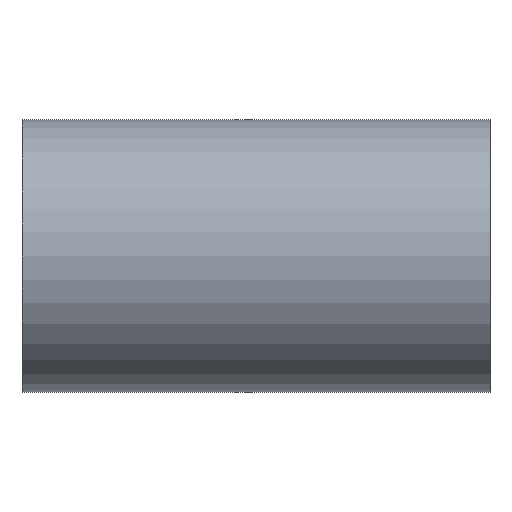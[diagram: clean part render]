
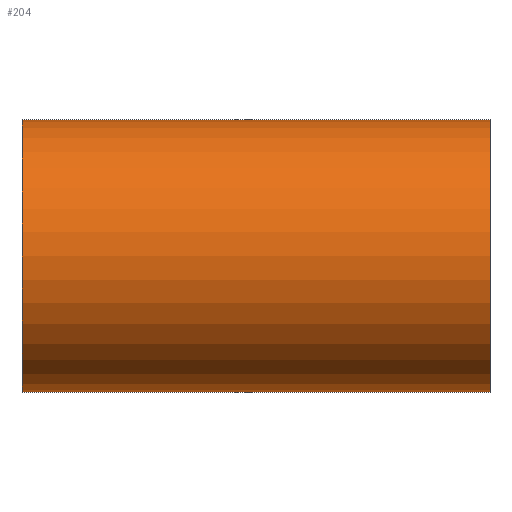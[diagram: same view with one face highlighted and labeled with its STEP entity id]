
A CAD part, front view. The second image highlights one B-rep face of the part: STEP entity #204.
In plain terms, the highlighted cylindrical face has radius 50.8 mm (diameter 101.6 mm), a partial arc.
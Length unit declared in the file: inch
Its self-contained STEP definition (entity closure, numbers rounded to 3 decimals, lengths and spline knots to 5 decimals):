
#3 = ORIENTED_EDGE ( 'NONE', *, *, #464, .T. ) ;
#28 = AXIS2_PLACEMENT_3D ( 'NONE', #210, #533, #257 ) ;
#76 = CARTESIAN_POINT ( 'NONE',  ( 3.4375, 0., 2. ) ) ;
#89 = LINE ( 'NONE', #228, #558 ) ;
#114 = DIRECTION ( 'NONE',  ( -1., 0., 0. ) ) ;
#139 = EDGE_LOOP ( 'NONE', ( #241, #566, #248, #3 ) ) ;
#153 = CIRCLE ( 'NONE', #560, 2. ) ;
#157 = CARTESIAN_POINT ( 'NONE',  ( 3.4375, 0., -2. ) ) ;
#176 = CIRCLE ( 'NONE', #28, 2. ) ;
#195 = EDGE_CURVE ( 'NONE', #597, #213, #89, .T. ) ;
#204 = ADVANCED_FACE ( 'NONE', ( #208 ), #550, .T. ) ;
#205 = DIRECTION ( 'NONE',  ( 1., 0., 0. ) ) ;
#208 = FACE_OUTER_BOUND ( 'NONE', #139, .T. ) ;
#210 = CARTESIAN_POINT ( 'NONE',  ( 3.4375, 0., 0. ) ) ;
#213 = VERTEX_POINT ( 'NONE', #476 ) ;
#228 = CARTESIAN_POINT ( 'NONE',  ( 3.4375, 0., 2. ) ) ;
#241 = ORIENTED_EDGE ( 'NONE', *, *, #472, .F. ) ;
#248 = ORIENTED_EDGE ( 'NONE', *, *, #195, .T. ) ;
#257 = DIRECTION ( 'NONE',  ( 0., 0., -1. ) ) ;
#273 = VECTOR ( 'NONE', #114, 39.37008 ) ;
#354 = VERTEX_POINT ( 'NONE', #438 ) ;
#380 = AXIS2_PLACEMENT_3D ( 'NONE', #595, #415, #508 ) ;
#392 = LINE ( 'NONE', #157, #273 ) ;
#408 = CARTESIAN_POINT ( 'NONE',  ( 3.4375, 0., -2. ) ) ;
#411 = VERTEX_POINT ( 'NONE', #408 ) ;
#415 = DIRECTION ( 'NONE',  ( -1., 0., 0. ) ) ;
#438 = CARTESIAN_POINT ( 'NONE',  ( -3.4375, 0., -2. ) ) ;
#463 = DIRECTION ( 'NONE',  ( -1., 0., 0. ) ) ;
#464 = EDGE_CURVE ( 'NONE', #213, #354, #153, .T. ) ;
#472 = EDGE_CURVE ( 'NONE', #411, #354, #392, .T. ) ;
#476 = CARTESIAN_POINT ( 'NONE',  ( -3.4375, 0., 2. ) ) ;
#488 = CARTESIAN_POINT ( 'NONE',  ( -3.4375, 0., 0. ) ) ;
#489 = EDGE_CURVE ( 'NONE', #597, #411, #176, .T. ) ;
#508 = DIRECTION ( 'NONE',  ( 0., 0., 1. ) ) ;
#529 = DIRECTION ( 'NONE',  ( 0., 0., -1. ) ) ;
#533 = DIRECTION ( 'NONE',  ( 1., 0., 0. ) ) ;
#550 = CYLINDRICAL_SURFACE ( 'NONE', #380, 2. ) ;
#558 = VECTOR ( 'NONE', #463, 39.37008 ) ;
#560 = AXIS2_PLACEMENT_3D ( 'NONE', #488, #205, #529 ) ;
#566 = ORIENTED_EDGE ( 'NONE', *, *, #489, .F. ) ;
#595 = CARTESIAN_POINT ( 'NONE',  ( 3.4375, 0., 0. ) ) ;
#597 = VERTEX_POINT ( 'NONE', #76 ) ;
